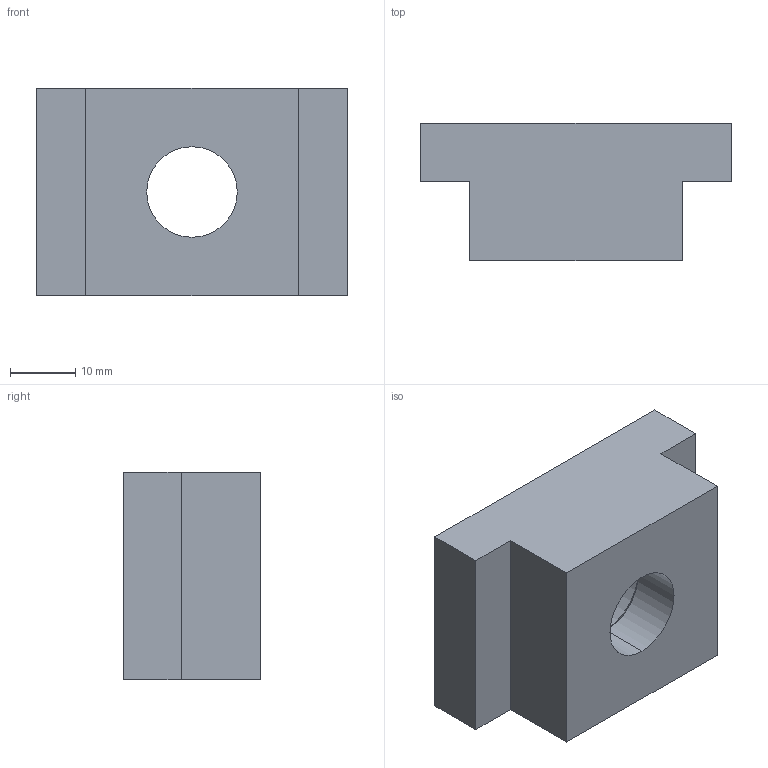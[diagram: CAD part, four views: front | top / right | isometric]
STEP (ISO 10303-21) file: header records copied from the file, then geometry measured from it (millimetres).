
FILE_DESCRIPTION (( 'STEP AP203' ), '1' );
FILE_NAME ('VERSABUILT MULTIGRIP VISE T-CLAMP - 2025-05-14.STEP', '2025-05-14T20:50:00', ( '' ), ( '' ), 'SwSTEP 2.0', 'SolidWorks 2019', '' );
FILE_SCHEMA (( 'CONFIG_CONTROL_DESIGN' ));
Length unit declared in the file: inch
Products named in the file (1): VERSABUILT MULTIGRIP VISE T-CLAMP - 2025-05-14
Bounding box: 47.69 x 21.08 x 31.75 mm (x, y, z)
Volume: 20541.6 mm3; surface area: 6856.7 mm2
Topology: 1 solids, 1 shells, 19 faces, 44 edges, 28 vertices
Faces by surface type: plane 11, cone 4, cylinder 4
Entity records: 621 total; most frequent: DIRECTION 96, CARTESIAN_POINT 92, ORIENTED_EDGE 88, EDGE_CURVE 44, VECTOR 32, LINE 32, AXIS2_PLACEMENT_3D 32, VERTEX_POINT 28
